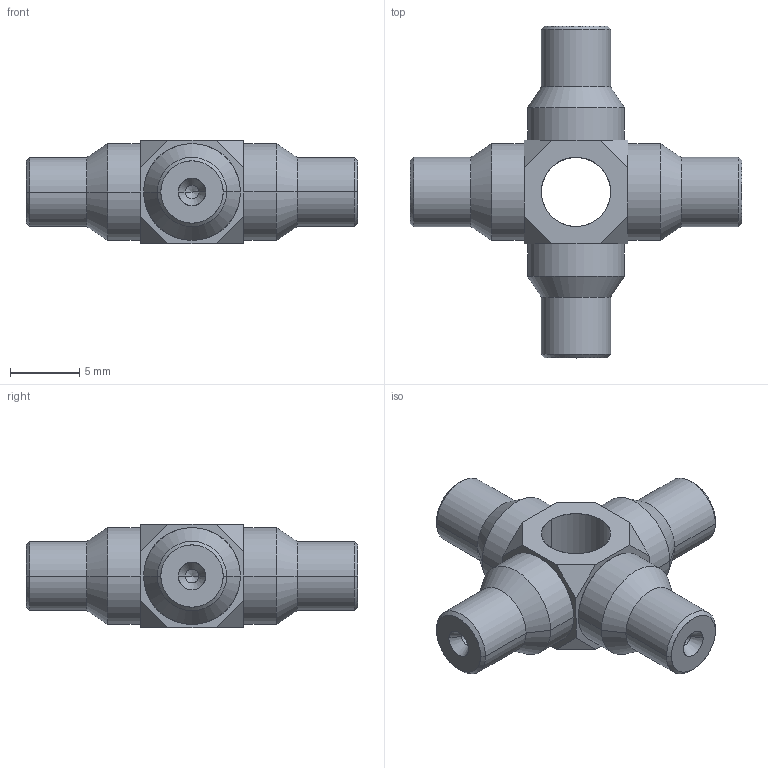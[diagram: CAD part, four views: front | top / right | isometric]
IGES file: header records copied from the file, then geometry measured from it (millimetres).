
Start section: SolidWorks IGES file using analytic representation for surfaces
Global section: file name: C:\Users\SELUHAA\Desktop\Work items\545792\IGES\IRB360_X-1130-WDS-4D_rev03_IGES_J\IRB360_X-1130-WDS-4D_rev03_UC_CAD.IGS; native system: SolidWorks 2022; preprocessor: SolidWorks 2022; author: SELUHAA; date: 231204.112235; units: millimetre
Bounding box: 24 x 24 x 7.5 mm (x, y, z)
Surface area: 943.9 mm2 (no closed solid volume)
Topology: 0 solids, 0 shells, 76 faces, 758 edges, 749 vertices
Faces by surface type: revolution 58, bspline 18
